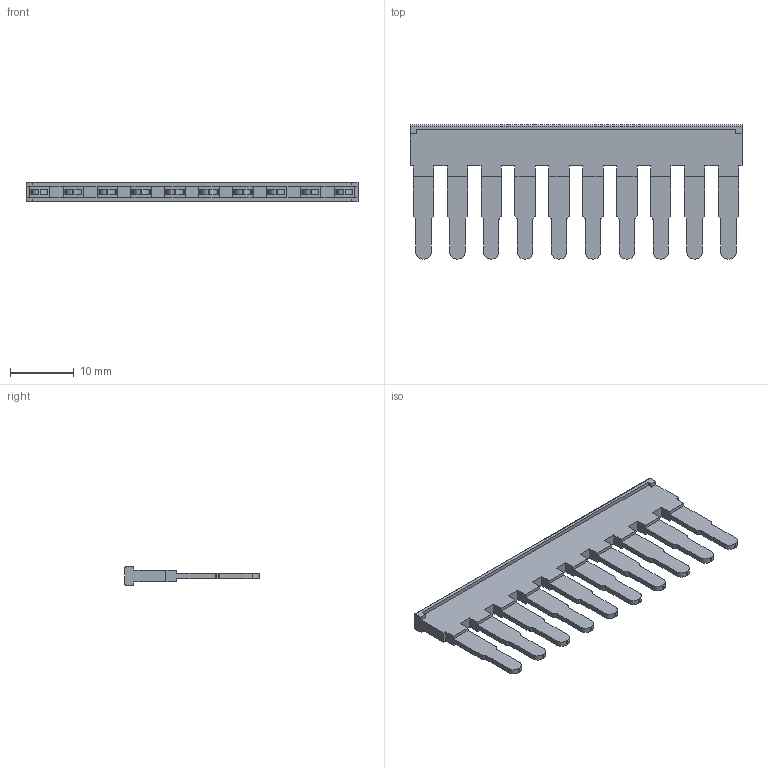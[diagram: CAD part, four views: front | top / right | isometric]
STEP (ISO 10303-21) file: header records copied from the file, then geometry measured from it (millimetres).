
FILE_DESCRIPTION(('Creo Elements/Direct Modeling STEP Export'),'2;1');
FILE_NAME('EFB0210R.stp','2019-07-26T14:06:59',(''),(''),'Creo Elements/Direct Modeling STEP processor for AP214 (Solid Model)','Creo Elements/Direct Modeling 20.1 10-Mar-2018 (C) Parametric Technology GmbH','');
FILE_SCHEMA(('AUTOMOTIVE_DESIGN { 1 0 10303 214 1 1 1 1 }'));
Length unit declared in the file: millimetre
Products named in the file (2): EFB0210R
Assembly tree (1 placements, depth 2):
  EFB0210R
    EFB0210R
Bounding box: 51.9 x 20.98 x 3 mm (x, y, z)
Volume: 1024.3 mm3; surface area: 2069.3 mm2
Topology: 1 solids, 1 shells, 200 faces, 594 edges, 396 vertices
Faces by surface type: plane 138, cylinder 62
Entity records: 7157 total; most frequent: ORIENTED_EDGE 1188, CARTESIAN_POINT 1162, DIRECTION 1082, EDGE_CURVE 594, VECTOR 450, LINE 450, VERTEX_POINT 396, AXIS2_PLACEMENT_3D 316
